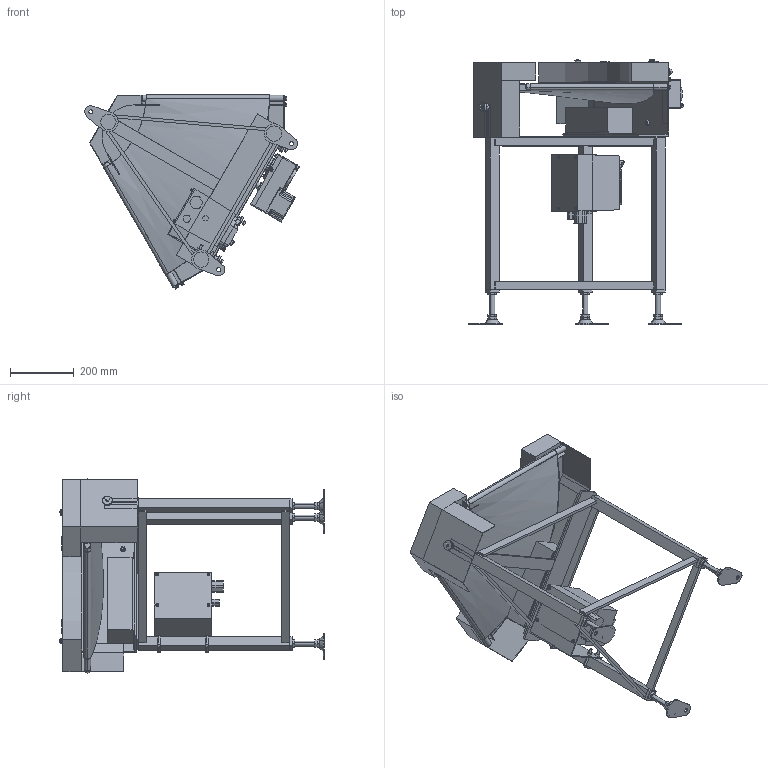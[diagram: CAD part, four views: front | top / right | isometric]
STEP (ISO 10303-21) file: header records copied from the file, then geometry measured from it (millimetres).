
FILE_DESCRIPTION (( 'STEP AP214' ), '1' );
FILE_NAME ('GFBC60-HS300-DC-R.STEP', '2024-01-18T02:12:23', ( '' ), ( '' ), 'SwSTEP 2.0', 'SolidWorks 2017', '' );
FILE_SCHEMA (( 'AUTOMOTIVE_DESIGN' ));
Length unit declared in the file: millimetre
Products named in the file (1): GFBC60-HS300-DC-R
Bounding box: 670.22 x 827.92 x 606.62 mm (x, y, z)
Volume: 17426841.8 mm3; surface area: 3125457 mm2
Topology: 65 solids, 66 shells, 1423 faces, 3330 edges, 2130 vertices
Faces by surface type: plane 868, cylinder 409, cone 73, bspline 49, torus 20, sphere 4
Entity records: 48746 total; most frequent: CARTESIAN_POINT 15210, DIRECTION 6813, ORIENTED_EDGE 6612, EDGE_CURVE 3306, AXIS2_PLACEMENT_3D 2351, VERTEX_POINT 2130, VECTOR 2111, LINE 2111
